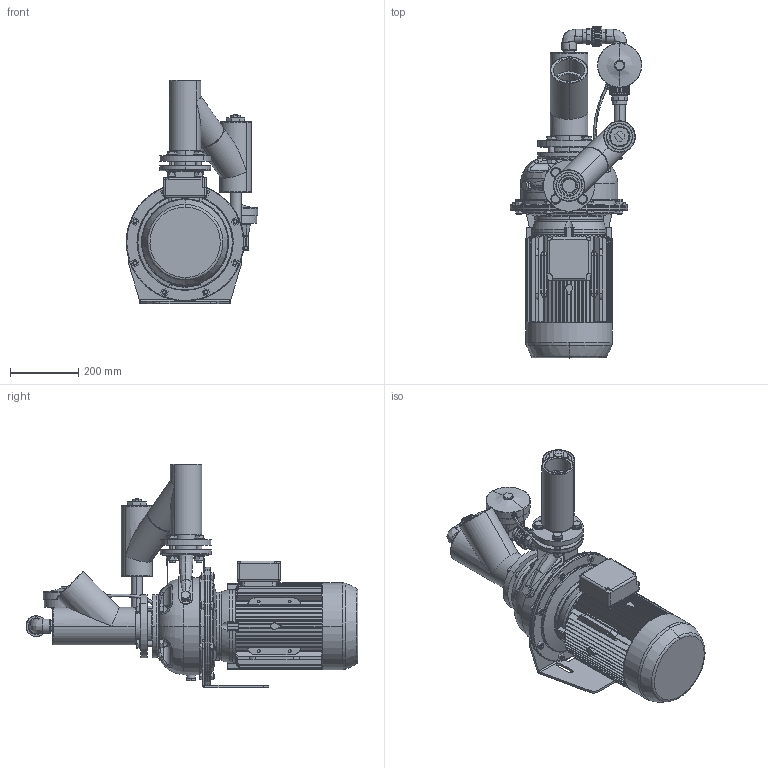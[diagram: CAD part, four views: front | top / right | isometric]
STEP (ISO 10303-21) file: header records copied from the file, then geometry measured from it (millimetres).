
FILE_DESCRIPTION (( 'STEP AP203' ), '1' );
FILE_NAME ('Lowara SHE 40-250 z.a.z auto. by-pass.STEP', '2011-04-06T14:10:29', ( '' ), ( '' ), 'SwSTEP 2.0', 'SolidWorks 2010', '' );
FILE_SCHEMA (( 'CONFIG_CONTROL_DESIGN' ));
Products named in the file (1): Lowara SHE 40-250 z.a.z auto. by-pass
Bounding box: 385.5 x 973.18 x 654.48 mm (x, y, z)
Volume: 34378944.7 mm3; surface area: 2998316.8 mm2
Topology: 67 solids, 69 shells, 2987 faces, 7504 edges, 4684 vertices
Faces by surface type: plane 1125, cylinder 946, cone 504, bspline 366, torus 46
Entity records: 118740 total; most frequent: CARTESIAN_POINT 50442, ORIENTED_EDGE 14822, DIRECTION 13691, EDGE_CURVE 7411, AXIS2_PLACEMENT_3D 5459, VERTEX_POINT 4684, EDGE_LOOP 3277, FACE_OUTER_BOUND 2987
